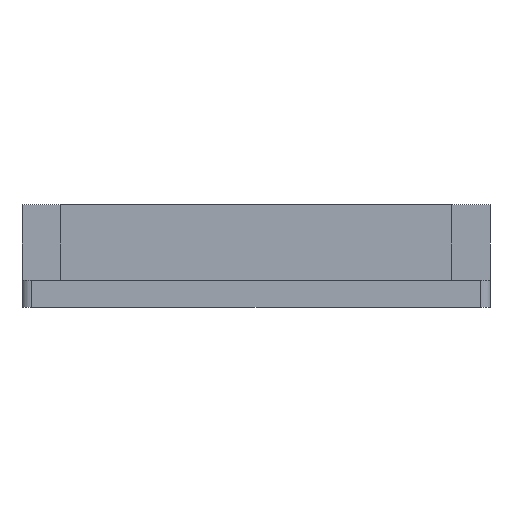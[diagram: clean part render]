
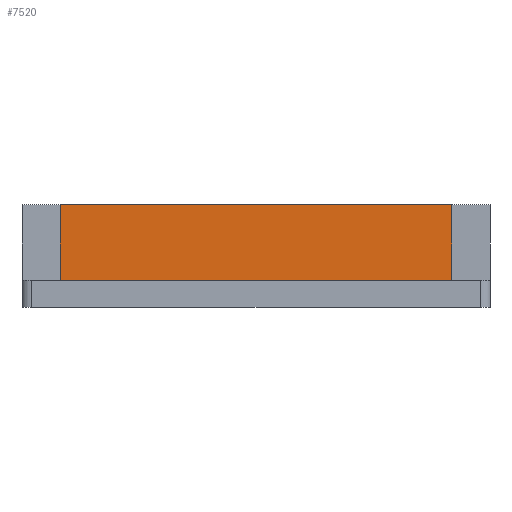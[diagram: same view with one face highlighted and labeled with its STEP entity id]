
A CAD part, front view. The second image highlights one B-rep face of the part: STEP entity #7520.
In plain terms, the highlighted planar face has unit normal (0, -1, 0).
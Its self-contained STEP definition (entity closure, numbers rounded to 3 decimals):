
#3152 = PLANE('',#3153);
#3153 = AXIS2_PLACEMENT_3D('',#3154,#3155,#3156);
#3154 = CARTESIAN_POINT('',(116.52,-103.677,37.518));
#3155 = DIRECTION('',(0.,0.,-1.));
#3156 = DIRECTION('',(-1.,0.,0.));
#3177 = VERTEX_POINT('',#3178);
#3178 = CARTESIAN_POINT('',(80.27,-153.427,37.518));
#3192 = PLANE('',#3193);
#3193 = AXIS2_PLACEMENT_3D('',#3194,#3195,#3196);
#3194 = CARTESIAN_POINT('',(80.27,-146.427,23.486));
#3195 = DIRECTION('',(-1.,0.,0.));
#3196 = DIRECTION('',(0.,-1.,0.));
#3204 = EDGE_CURVE('',#3205,#3177,#3207,.T.);
#3205 = VERTEX_POINT('',#3206);
#3206 = CARTESIAN_POINT('',(152.77,-153.427,37.518));
#3207 = SURFACE_CURVE('',#3208,(#3212,#3219),.PCURVE_S1.);
#3208 = LINE('',#3209,#3210);
#3209 = CARTESIAN_POINT('',(98.395,-153.427,37.518));
#3210 = VECTOR('',#3211,1.);
#3211 = DIRECTION('',(-1.,0.,0.));
#3212 = PCURVE('',#3152,#3213);
#3213 = DEFINITIONAL_REPRESENTATION('',(#3214),#3218);
#3214 = LINE('',#3215,#3216);
#3215 = CARTESIAN_POINT('',(18.125,-49.75));
#3216 = VECTOR('',#3217,1.);
#3217 = DIRECTION('',(1.,0.));
#3218 = ( GEOMETRIC_REPRESENTATION_CONTEXT(2) 
PARAMETRIC_REPRESENTATION_CONTEXT() REPRESENTATION_CONTEXT('2D SPACE',''
  ) );
#3219 = PCURVE('',#3220,#3225);
#3220 = PLANE('',#3221);
#3221 = AXIS2_PLACEMENT_3D('',#3222,#3223,#3224);
#3222 = CARTESIAN_POINT('',(80.27,-153.427,37.966));
#3223 = DIRECTION('',(0.,1.,0.));
#3224 = DIRECTION('',(1.,0.,0.));
#3225 = DEFINITIONAL_REPRESENTATION('',(#3226),#3230);
#3226 = LINE('',#3227,#3228);
#3227 = CARTESIAN_POINT('',(18.125,0.448));
#3228 = VECTOR('',#3229,1.);
#3229 = DIRECTION('',(-1.,0.));
#3230 = ( GEOMETRIC_REPRESENTATION_CONTEXT(2) 
PARAMETRIC_REPRESENTATION_CONTEXT() REPRESENTATION_CONTEXT('2D SPACE',''
  ) );
#3246 = PLANE('',#3247);
#3247 = AXIS2_PLACEMENT_3D('',#3248,#3249,#3250);
#3248 = CARTESIAN_POINT('',(152.77,-153.677,23.486));
#3249 = DIRECTION('',(1.,0.,0.));
#3250 = DIRECTION('',(-0.,1.,0.));
#3301 = PLANE('',#3302);
#3302 = AXIS2_PLACEMENT_3D('',#3303,#3304,#3305);
#3303 = CARTESIAN_POINT('',(138.171,-66.177,23.486));
#3304 = DIRECTION('',(0.,0.,1.));
#3305 = DIRECTION('',(-1.,0.,0.));
#6811 = VERTEX_POINT('',#6812);
#6812 = CARTESIAN_POINT('',(80.27,-153.427,23.486));
#6833 = EDGE_CURVE('',#6811,#3177,#6834,.T.);
#6834 = SURFACE_CURVE('',#6835,(#6839,#6846),.PCURVE_S1.);
#6835 = LINE('',#6836,#6837);
#6836 = CARTESIAN_POINT('',(80.27,-153.427,30.726));
#6837 = VECTOR('',#6838,1.);
#6838 = DIRECTION('',(0.,0.,1.));
#6839 = PCURVE('',#3192,#6840);
#6840 = DEFINITIONAL_REPRESENTATION('',(#6841),#6845);
#6841 = LINE('',#6842,#6843);
#6842 = CARTESIAN_POINT('',(7.,7.24));
#6843 = VECTOR('',#6844,1.);
#6844 = DIRECTION('',(0.,1.));
#6845 = ( GEOMETRIC_REPRESENTATION_CONTEXT(2) 
PARAMETRIC_REPRESENTATION_CONTEXT() REPRESENTATION_CONTEXT('2D SPACE',''
  ) );
#6846 = PCURVE('',#3220,#6847);
#6847 = DEFINITIONAL_REPRESENTATION('',(#6848),#6852);
#6848 = LINE('',#6849,#6850);
#6849 = CARTESIAN_POINT('',(0.,7.24));
#6850 = VECTOR('',#6851,1.);
#6851 = DIRECTION('',(0.,-1.));
#6852 = ( GEOMETRIC_REPRESENTATION_CONTEXT(2) 
PARAMETRIC_REPRESENTATION_CONTEXT() REPRESENTATION_CONTEXT('2D SPACE',''
  ) );
#7520 = ADVANCED_FACE('',(#7521),#3220,.F.);
#7521 = FACE_BOUND('',#7522,.T.);
#7522 = EDGE_LOOP('',(#7523,#7524,#7525,#7548));
#7523 = ORIENTED_EDGE('',*,*,#3204,.T.);
#7524 = ORIENTED_EDGE('',*,*,#6833,.F.);
#7525 = ORIENTED_EDGE('',*,*,#7526,.T.);
#7526 = EDGE_CURVE('',#6811,#7527,#7529,.T.);
#7527 = VERTEX_POINT('',#7528);
#7528 = CARTESIAN_POINT('',(152.77,-153.427,23.486));
#7529 = SURFACE_CURVE('',#7530,(#7534,#7541),.PCURVE_S1.);
#7530 = LINE('',#7531,#7532);
#7531 = CARTESIAN_POINT('',(80.27,-153.427,23.486));
#7532 = VECTOR('',#7533,1.);
#7533 = DIRECTION('',(1.,0.,0.));
#7534 = PCURVE('',#3220,#7535);
#7535 = DEFINITIONAL_REPRESENTATION('',(#7536),#7540);
#7536 = LINE('',#7537,#7538);
#7537 = CARTESIAN_POINT('',(0.,14.48));
#7538 = VECTOR('',#7539,1.);
#7539 = DIRECTION('',(1.,0.));
#7540 = ( GEOMETRIC_REPRESENTATION_CONTEXT(2) 
PARAMETRIC_REPRESENTATION_CONTEXT() REPRESENTATION_CONTEXT('2D SPACE',''
  ) );
#7541 = PCURVE('',#3301,#7542);
#7542 = DEFINITIONAL_REPRESENTATION('',(#7543),#7547);
#7543 = LINE('',#7544,#7545);
#7544 = CARTESIAN_POINT('',(57.901,87.25));
#7545 = VECTOR('',#7546,1.);
#7546 = DIRECTION('',(-1.,0.));
#7547 = ( GEOMETRIC_REPRESENTATION_CONTEXT(2) 
PARAMETRIC_REPRESENTATION_CONTEXT() REPRESENTATION_CONTEXT('2D SPACE',''
  ) );
#7548 = ORIENTED_EDGE('',*,*,#7549,.F.);
#7549 = EDGE_CURVE('',#3205,#7527,#7550,.T.);
#7550 = SURFACE_CURVE('',#7551,(#7555,#7562),.PCURVE_S1.);
#7551 = LINE('',#7552,#7553);
#7552 = CARTESIAN_POINT('',(152.77,-153.427,30.726));
#7553 = VECTOR('',#7554,1.);
#7554 = DIRECTION('',(0.,0.,-1.));
#7555 = PCURVE('',#3220,#7556);
#7556 = DEFINITIONAL_REPRESENTATION('',(#7557),#7561);
#7557 = LINE('',#7558,#7559);
#7558 = CARTESIAN_POINT('',(72.5,7.24));
#7559 = VECTOR('',#7560,1.);
#7560 = DIRECTION('',(0.,1.));
#7561 = ( GEOMETRIC_REPRESENTATION_CONTEXT(2) 
PARAMETRIC_REPRESENTATION_CONTEXT() REPRESENTATION_CONTEXT('2D SPACE',''
  ) );
#7562 = PCURVE('',#3246,#7563);
#7563 = DEFINITIONAL_REPRESENTATION('',(#7564),#7568);
#7564 = LINE('',#7565,#7566);
#7565 = CARTESIAN_POINT('',(0.25,7.24));
#7566 = VECTOR('',#7567,1.);
#7567 = DIRECTION('',(0.,-1.));
#7568 = ( GEOMETRIC_REPRESENTATION_CONTEXT(2) 
PARAMETRIC_REPRESENTATION_CONTEXT() REPRESENTATION_CONTEXT('2D SPACE',''
  ) );
